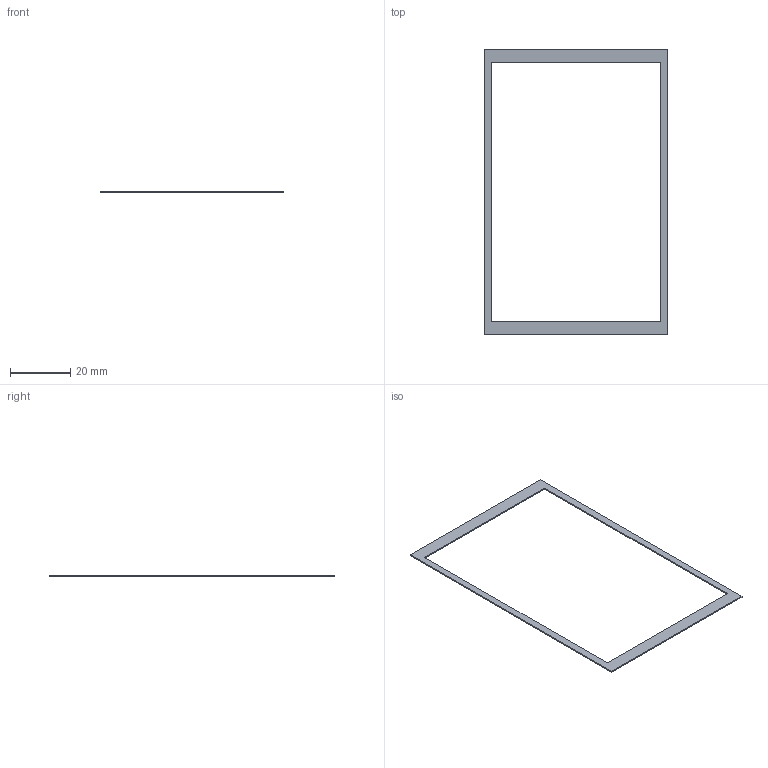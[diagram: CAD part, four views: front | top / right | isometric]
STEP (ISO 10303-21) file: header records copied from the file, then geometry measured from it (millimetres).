
FILE_DESCRIPTION(('Open CASCADE Model'),'2;1');
FILE_NAME('Open CASCADE Shape Model','2026-09-03T14:37:12',('Author'),( 'Open CASCADE'),'Open CASCADE STEP processor 7.9','Open CASCADE 7.9' ,'Unknown');
FILE_SCHEMA(('AUTOMOTIVE_DESIGN { 1 0 10303 214 1 1 1 1 }'));
Length unit declared in the file: millimetre
Products named in the file (1): Open CASCADE STEP translator 7.9 2
Bounding box: 60.88 x 94.57 x 0.4 mm (x, y, z)
Volume: 380.9 mm3; surface area: 2142.4 mm2
Topology: 1 solids, 1 shells, 10 faces, 24 edges, 16 vertices
Faces by surface type: plane 10
Entity records: 614 total; most frequent: CARTESIAN_POINT 99, DIRECTION 94, LINE 72, VECTOR 72, ORIENTED_EDGE 48, PCURVE 48, DEFINITIONAL_REPRESENTATION 48, EDGE_CURVE 24
